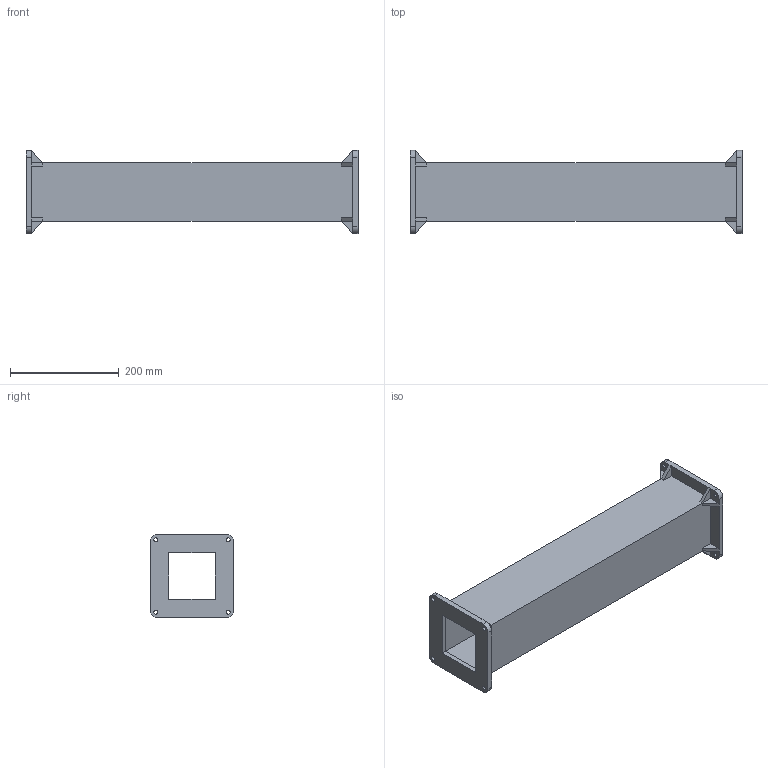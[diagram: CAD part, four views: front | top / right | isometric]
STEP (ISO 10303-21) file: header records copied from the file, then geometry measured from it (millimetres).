
FILE_DESCRIPTION((''),'1');
FILE_NAME('2','2001-04-18T',('jlue'),(''),'PRO/ENGINEER BY PARAMETRIC TECHNOLOGY CORPORATION, 9846','PRO/ENGINEER BY PARAMETRIC TECHNOLOGY CORPORATION, 9846','');
FILE_SCHEMA(('CONFIG_CONTROL_DESIGN'));
Length unit declared in the file: inch
Products named in the file (1): 2
Bounding box: 609.6 x 152.4 x 152.4 mm (x, y, z)
Surface area: 579727.7 mm2 (no closed solid volume)
Topology: 0 solids, 0 shells, 116 faces, 568 edges, 576 vertices
Faces by surface type: plane 92, cylinder 24
Entity records: 2926 total; most frequent: DIRECTION 568, COMPOSITE_CURVE_SEGMENT 560, CARTESIAN_POINT 404, TRIMMED_CURVE 288, VECTOR 240, LINE 240, AXIS2_PLACEMENT_3D 164, CURVE_BOUNDED_SURFACE 116
